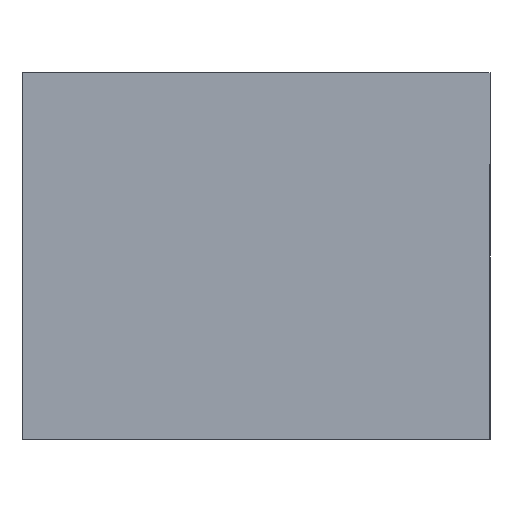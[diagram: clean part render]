
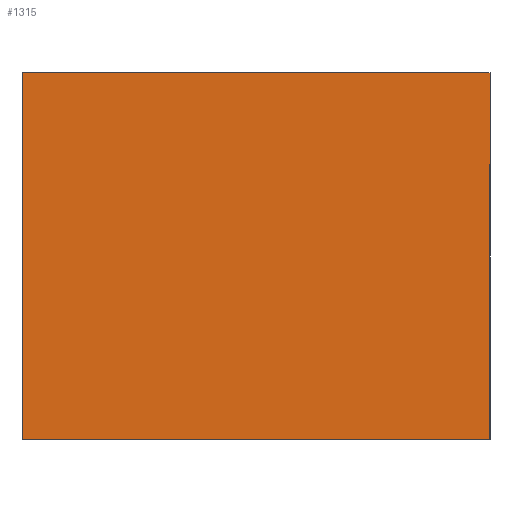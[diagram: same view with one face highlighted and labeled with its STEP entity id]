
A CAD part, front view. The second image highlights one B-rep face of the part: STEP entity #1315.
In plain terms, the highlighted planar face has unit normal (0, -1, 0).
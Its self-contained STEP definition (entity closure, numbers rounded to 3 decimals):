
#69 = LINE ( 'NONE', #1538, #2442 ) ;
#104 = EDGE_CURVE ( 'NONE', #1567, #520, #960, .T. ) ;
#192 = EDGE_CURVE ( 'NONE', #520, #1239, #773, .T. ) ;
#281 = CARTESIAN_POINT ( 'NONE',  ( 115., 0., -90. ) ) ;
#318 = CARTESIAN_POINT ( 'NONE',  ( -115., 0., -90. ) ) ;
#401 = DIRECTION ( 'NONE',  ( 0., 0., 1. ) ) ;
#520 = VERTEX_POINT ( 'NONE', #1682 ) ;
#641 = ORIENTED_EDGE ( 'NONE', *, *, #104, .F. ) ;
#736 = VECTOR ( 'NONE', #401, 1000. ) ;
#746 = CARTESIAN_POINT ( 'NONE',  ( 115., 0., 90. ) ) ;
#773 = LINE ( 'NONE', #318, #736 ) ;
#900 = VECTOR ( 'NONE', #1610, 1000. ) ;
#960 = LINE ( 'NONE', #1977, #900 ) ;
#1066 = FACE_OUTER_BOUND ( 'NONE', #2154, .T. ) ;
#1169 = ORIENTED_EDGE ( 'NONE', *, *, #192, .F. ) ;
#1229 = ORIENTED_EDGE ( 'NONE', *, *, #2441, .F. ) ;
#1239 = VERTEX_POINT ( 'NONE', #1542 ) ;
#1288 = DIRECTION ( 'NONE',  ( 0., 0., 1. ) ) ;
#1298 = DIRECTION ( 'NONE',  ( 0., 1., 0. ) ) ;
#1315 = ADVANCED_FACE ( 'NONE', ( #1066 ), #1323, .F. ) ;
#1323 = PLANE ( 'NONE',  #1487 ) ;
#1379 = CARTESIAN_POINT ( 'NONE',  ( 0., 0., 0. ) ) ;
#1473 = DIRECTION ( 'NONE',  ( 1., 0., 0. ) ) ;
#1486 = VERTEX_POINT ( 'NONE', #746 ) ;
#1487 = AXIS2_PLACEMENT_3D ( 'NONE', #1379, #1298, #1288 ) ;
#1538 = CARTESIAN_POINT ( 'NONE',  ( -115., 0., 90. ) ) ;
#1542 = CARTESIAN_POINT ( 'NONE',  ( -115., 0., 90. ) ) ;
#1567 = VERTEX_POINT ( 'NONE', #281 ) ;
#1610 = DIRECTION ( 'NONE',  ( -1., 0., 0. ) ) ;
#1682 = CARTESIAN_POINT ( 'NONE',  ( -115., 0., -90. ) ) ;
#1772 = ORIENTED_EDGE ( 'NONE', *, *, #1996, .F. ) ;
#1895 = VECTOR ( 'NONE', #2228, 1000. ) ;
#1899 = LINE ( 'NONE', #2209, #1895 ) ;
#1977 = CARTESIAN_POINT ( 'NONE',  ( -115., 0., -90. ) ) ;
#1996 = EDGE_CURVE ( 'NONE', #1239, #1486, #69, .T. ) ;
#2154 = EDGE_LOOP ( 'NONE', ( #1229, #1772, #1169, #641 ) ) ;
#2209 = CARTESIAN_POINT ( 'NONE',  ( 115., 0., -90. ) ) ;
#2228 = DIRECTION ( 'NONE',  ( 0., 0., -1. ) ) ;
#2441 = EDGE_CURVE ( 'NONE', #1486, #1567, #1899, .T. ) ;
#2442 = VECTOR ( 'NONE', #1473, 1000. ) ;
